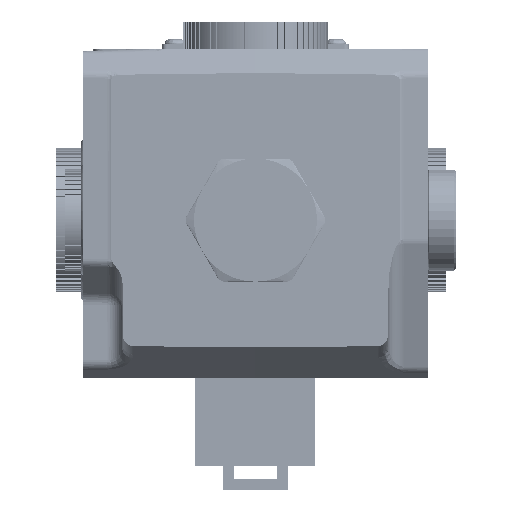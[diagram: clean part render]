
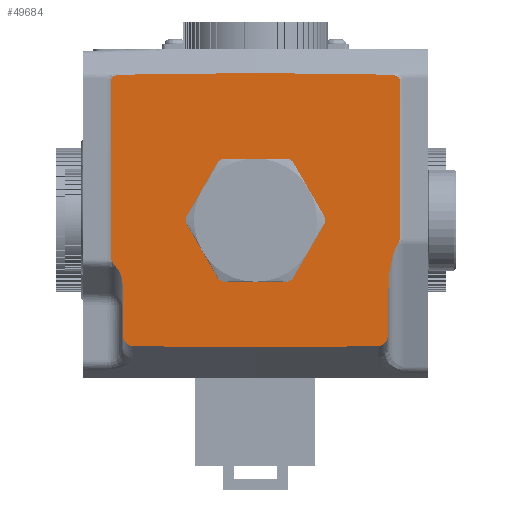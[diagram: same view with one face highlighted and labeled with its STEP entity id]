
A CAD part, left-side view. The second image highlights one B-rep face of the part: STEP entity #49684.
In plain terms, the highlighted planar face has unit normal (-1, 0, 0).
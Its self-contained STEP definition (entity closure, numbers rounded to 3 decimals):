
#263=ELLIPSE('',#58927,2.309,2.);
#264=ELLIPSE('',#58929,9.708,3.);
#266=ELLIPSE('',#58934,2.309,2.);
#267=ELLIPSE('',#58936,4.243,3.);
#1515=PLANE('',#59355);
#2866=B_SPLINE_CURVE_WITH_KNOTS('',3,(#96049,#96050,#96051,#96052,#96053,
#96054,#96055,#96056,#96057,#96058,#96059,#96060,#96061,#96062,#96063,#96064),
 .UNSPECIFIED.,.F.,.F.,(4,3,3,3,3,4),(0.,0.461,0.692,
0.811,0.909,1.),.UNSPECIFIED.);
#2872=B_SPLINE_CURVE_WITH_KNOTS('',3,(#96207,#96208,#96209,#96210,#96211,
#96212,#96213),.UNSPECIFIED.,.F.,.F.,(4,3,4),(0.,0.42,1.),
 .UNSPECIFIED.);
#2874=B_SPLINE_CURVE_WITH_KNOTS('',3,(#96369,#96370,#96371,#96372,#96373,
#96374,#96375,#96376,#96377,#96378,#96379,#96380,#96381,#96382,#96383,#96384),
 .UNSPECIFIED.,.F.,.F.,(4,3,3,3,3,4),(0.,0.105,0.209,
0.367,0.657,1.),.UNSPECIFIED.);
#2877=B_SPLINE_CURVE_WITH_KNOTS('',3,(#96467,#96468,#96469,#96470,#96471,
#96472,#96473,#96474,#96475,#96476,#96477,#96478,#96479),.UNSPECIFIED.,
 .F.,.F.,(4,3,3,3,4),(0.,0.498,0.754,0.896,
1.),.UNSPECIFIED.);
#8972=EDGE_LOOP('',(#30159));
#8973=EDGE_LOOP('',(#30160,#30161,#30162,#30163,#30164,#30165,#30166,#30167,
#30168,#30169,#30170,#30171,#30172,#30173,#30174,#30175));
#12778=LINE('',#94200,#18236);
#12797=LINE('',#94242,#18255);
#12866=LINE('',#95328,#18324);
#12932=LINE('',#96032,#18390);
#12937=LINE('',#96359,#18395);
#12939=LINE('',#96362,#18397);
#12942=LINE('',#96565,#18400);
#12943=LINE('',#96567,#18401);
#18236=VECTOR('',#66630,1.);
#18255=VECTOR('',#66665,1.);
#18324=VECTOR('',#66878,1.);
#18390=VECTOR('',#67002,1.);
#18395=VECTOR('',#67021,1.);
#18397=VECTOR('',#67025,1.);
#18400=VECTOR('',#67040,1.);
#18401=VECTOR('',#67043,1.);
#30159=ORIENTED_EDGE('',*,*,#42660,.F.);
#30160=ORIENTED_EDGE('',*,*,#41505,.F.);
#30161=ORIENTED_EDGE('',*,*,#41507,.T.);
#30162=ORIENTED_EDGE('',*,*,#41496,.F.);
#30163=ORIENTED_EDGE('',*,*,#41490,.F.);
#30164=ORIENTED_EDGE('',*,*,#41206,.F.);
#30165=ORIENTED_EDGE('',*,*,#41511,.F.);
#30166=ORIENTED_EDGE('',*,*,#41521,.T.);
#30167=ORIENTED_EDGE('',*,*,#41519,.F.);
#30168=ORIENTED_EDGE('',*,*,#41515,.T.);
#30169=ORIENTED_EDGE('',*,*,#41522,.F.);
#30170=ORIENTED_EDGE('',*,*,#41512,.F.);
#30171=ORIENTED_EDGE('',*,*,#41185,.F.);
#30172=ORIENTED_EDGE('',*,*,#41339,.F.);
#30173=ORIENTED_EDGE('',*,*,#41494,.F.);
#30174=ORIENTED_EDGE('',*,*,#41509,.T.);
#30175=ORIENTED_EDGE('',*,*,#41499,.T.);
#41185=EDGE_CURVE('',#53897,#53898,#12778,.T.);
#41206=EDGE_CURVE('',#53912,#53913,#12797,.T.);
#41339=EDGE_CURVE('',#54001,#53897,#12866,.T.);
#41490=EDGE_CURVE('',#53913,#54135,#12932,.T.);
#41494=EDGE_CURVE('',#54138,#54001,#263,.T.);
#41496=EDGE_CURVE('',#54135,#54139,#2866,.T.);
#41499=EDGE_CURVE('',#54141,#54142,#264,.T.);
#41505=EDGE_CURVE('',#54146,#54142,#2872,.T.);
#41507=EDGE_CURVE('',#54146,#54139,#12937,.T.);
#41509=EDGE_CURVE('',#54138,#54141,#12939,.T.);
#41511=EDGE_CURVE('',#54147,#53912,#2874,.T.);
#41512=EDGE_CURVE('',#53898,#54148,#266,.T.);
#41515=EDGE_CURVE('',#54150,#54151,#267,.T.);
#41519=EDGE_CURVE('',#54150,#54153,#2877,.T.);
#41521=EDGE_CURVE('',#54147,#54153,#12942,.T.);
#41522=EDGE_CURVE('',#54148,#54151,#12943,.T.);
#42660=EDGE_CURVE('',#54784,#54784,#47035,.T.);
#47035=CIRCLE('',#59354,10.541);
#49684=ADVANCED_FACE('',(#51338,#51339),#1515,.T.);
#51338=FACE_BOUND('',#8972,.T.);
#51339=FACE_BOUND('',#8973,.T.);
#53897=VERTEX_POINT('',#94199);
#53898=VERTEX_POINT('',#94201);
#53912=VERTEX_POINT('',#94241);
#53913=VERTEX_POINT('',#94243);
#54001=VERTEX_POINT('',#95327);
#54135=VERTEX_POINT('',#96033);
#54138=VERTEX_POINT('',#96040);
#54139=VERTEX_POINT('',#96065);
#54141=VERTEX_POINT('',#96184);
#54142=VERTEX_POINT('',#96185);
#54146=VERTEX_POINT('',#96206);
#54147=VERTEX_POINT('',#96368);
#54148=VERTEX_POINT('',#96446);
#54150=VERTEX_POINT('',#96457);
#54151=VERTEX_POINT('',#96458);
#54153=VERTEX_POINT('',#96480);
#54784=VERTEX_POINT('',#111039);
#58927=AXIS2_PLACEMENT_3D('',#96041,#67009,#67010);
#58929=AXIS2_PLACEMENT_3D('',#96183,#67013,#67014);
#58934=AXIS2_PLACEMENT_3D('',#96445,#67028,#67029);
#58936=AXIS2_PLACEMENT_3D('',#96456,#67033,#67034);
#59354=AXIS2_PLACEMENT_3D('',#111038,#68572,#68573);
#59355=AXIS2_PLACEMENT_3D('',#111040,#68574,#68575);
#66630=DIRECTION('',(0.,1.,0.01));
#66665=DIRECTION('',(0.,-1.,0.012));
#66878=DIRECTION('',(0.,1.,-0.01));
#67002=DIRECTION('',(0.,-1.,-0.012));
#67009=DIRECTION('',(1.,0.,0.));
#67010=DIRECTION('',(0.,0.,1.));
#67013=DIRECTION('',(1.,0.,0.));
#67014=DIRECTION('',(0.,0.,1.));
#67021=DIRECTION('',(0.,0.,1.));
#67025=DIRECTION('',(0.,0.,1.));
#67028=DIRECTION('',(1.,0.,0.));
#67029=DIRECTION('',(0.,0.,-1.));
#67033=DIRECTION('',(1.,0.,0.));
#67034=DIRECTION('',(0.,0.,-1.));
#67040=DIRECTION('',(0.,0.,-1.));
#67043=DIRECTION('',(0.,0.,1.));
#68572=DIRECTION('',(-1.,0.,0.));
#68573=DIRECTION('',(0.,0.,1.));
#68574=DIRECTION('',(-1.,0.,0.));
#68575=DIRECTION('',(0.,0.,1.));
#94199=CARTESIAN_POINT('',(-82.2,0.,-23.747));
#94200=CARTESIAN_POINT('',(-82.2,-0.169,-23.748));
#94201=CARTESIAN_POINT('',(-82.2,22.817,-23.517));
#94241=CARTESIAN_POINT('',(-82.2,25.228,27.188));
#94242=CARTESIAN_POINT('',(-82.2,-0.184,27.502));
#94243=CARTESIAN_POINT('',(-82.2,0.,27.5));
#95327=CARTESIAN_POINT('',(-82.2,-22.817,-23.517));
#95328=CARTESIAN_POINT('',(-82.2,0.169,-23.748));
#96032=CARTESIAN_POINT('',(-82.2,0.184,27.502));
#96033=CARTESIAN_POINT('',(-82.2,-25.228,27.188));
#96040=CARTESIAN_POINT('',(-82.2,-24.8,-21.207));
#96041=CARTESIAN_POINT('',(-82.2,-22.8,-21.207));
#96049=CARTESIAN_POINT('',(-82.2,-25.228,27.188));
#96050=CARTESIAN_POINT('',(-82.2,-25.547,27.184));
#96051=CARTESIAN_POINT('',(-82.2,-25.872,27.135));
#96052=CARTESIAN_POINT('',(-82.2,-26.171,27.024));
#96053=CARTESIAN_POINT('',(-82.2,-26.321,26.968));
#96054=CARTESIAN_POINT('',(-82.2,-26.469,26.896));
#96055=CARTESIAN_POINT('',(-82.2,-26.597,26.799));
#96056=CARTESIAN_POINT('',(-82.2,-26.663,26.749));
#96057=CARTESIAN_POINT('',(-82.2,-26.725,26.691));
#96058=CARTESIAN_POINT('',(-82.2,-26.776,26.625));
#96059=CARTESIAN_POINT('',(-82.2,-26.818,26.57));
#96060=CARTESIAN_POINT('',(-82.2,-26.853,26.509));
#96061=CARTESIAN_POINT('',(-82.2,-26.875,26.444));
#96062=CARTESIAN_POINT('',(-82.2,-26.895,26.384));
#96063=CARTESIAN_POINT('',(-82.2,-26.905,26.319));
#96064=CARTESIAN_POINT('',(-82.2,-26.905,26.255));
#96065=CARTESIAN_POINT('',(-82.2,-26.905,26.255));
#96183=CARTESIAN_POINT('',(-82.2,-27.8,-13.329));
#96184=CARTESIAN_POINT('',(-82.2,-24.8,-13.329));
#96185=CARTESIAN_POINT('',(-82.2,-26.497,-4.585));
#96206=CARTESIAN_POINT('',(-82.2,-26.906,-3.567));
#96207=CARTESIAN_POINT('',(-82.2,-26.906,-3.567));
#96208=CARTESIAN_POINT('',(-82.2,-26.906,-3.722));
#96209=CARTESIAN_POINT('',(-82.2,-26.866,-3.877));
#96210=CARTESIAN_POINT('',(-82.2,-26.808,-4.02));
#96211=CARTESIAN_POINT('',(-82.2,-26.727,-4.219));
#96212=CARTESIAN_POINT('',(-82.2,-26.613,-4.404));
#96213=CARTESIAN_POINT('',(-82.2,-26.497,-4.585));
#96359=CARTESIAN_POINT('',(-82.2,-26.905,9.));
#96362=CARTESIAN_POINT('',(-82.2,-24.8,-2.423));
#96368=CARTESIAN_POINT('',(-82.2,26.905,26.255));
#96369=CARTESIAN_POINT('',(-82.2,26.905,26.255));
#96370=CARTESIAN_POINT('',(-82.2,26.905,26.328));
#96371=CARTESIAN_POINT('',(-82.2,26.892,26.402));
#96372=CARTESIAN_POINT('',(-82.2,26.865,26.47));
#96373=CARTESIAN_POINT('',(-82.2,26.838,26.538));
#96374=CARTESIAN_POINT('',(-82.2,26.798,26.601));
#96375=CARTESIAN_POINT('',(-82.2,26.751,26.656));
#96376=CARTESIAN_POINT('',(-82.2,26.679,26.74));
#96377=CARTESIAN_POINT('',(-82.2,26.59,26.81));
#96378=CARTESIAN_POINT('',(-82.2,26.496,26.868));
#96379=CARTESIAN_POINT('',(-82.2,26.325,26.974));
#96380=CARTESIAN_POINT('',(-82.2,26.133,27.046));
#96381=CARTESIAN_POINT('',(-82.2,25.938,27.097));
#96382=CARTESIAN_POINT('',(-82.2,25.707,27.156));
#96383=CARTESIAN_POINT('',(-82.2,25.467,27.185));
#96384=CARTESIAN_POINT('',(-82.2,25.228,27.188));
#96445=CARTESIAN_POINT('',(-82.2,22.8,-21.207));
#96446=CARTESIAN_POINT('',(-82.2,24.8,-21.207));
#96456=CARTESIAN_POINT('',(-82.2,27.8,-12.215));
#96457=CARTESIAN_POINT('',(-82.2,25.546,-9.416));
#96458=CARTESIAN_POINT('',(-82.2,24.8,-12.215));
#96467=CARTESIAN_POINT('',(-82.2,25.546,-9.416));
#96468=CARTESIAN_POINT('',(-82.2,25.77,-9.056));
#96469=CARTESIAN_POINT('',(-82.2,26.03,-8.719));
#96470=CARTESIAN_POINT('',(-82.2,26.294,-8.386));
#96471=CARTESIAN_POINT('',(-82.2,26.43,-8.215));
#96472=CARTESIAN_POINT('',(-82.2,26.568,-8.044));
#96473=CARTESIAN_POINT('',(-82.2,26.688,-7.862));
#96474=CARTESIAN_POINT('',(-82.2,26.755,-7.761));
#96475=CARTESIAN_POINT('',(-82.2,26.816,-7.654));
#96476=CARTESIAN_POINT('',(-82.2,26.857,-7.541));
#96477=CARTESIAN_POINT('',(-82.2,26.887,-7.458));
#96478=CARTESIAN_POINT('',(-82.2,26.905,-7.37));
#96479=CARTESIAN_POINT('',(-82.2,26.905,-7.282));
#96480=CARTESIAN_POINT('',(-82.2,26.905,-7.282));
#96565=CARTESIAN_POINT('',(-82.2,26.905,8.));
#96567=CARTESIAN_POINT('',(-82.2,24.8,-1.412));
#111038=CARTESIAN_POINT('',(-82.2,0.,0.026));
#111039=CARTESIAN_POINT('',(-82.2,0.,10.568));
#111040=CARTESIAN_POINT('',(-82.2,5.844,-5.818));
